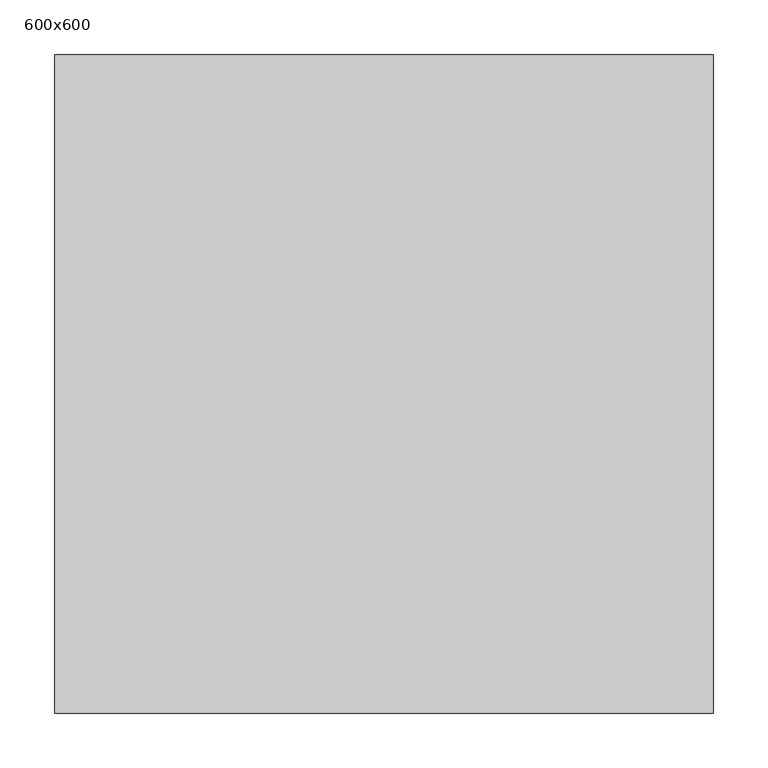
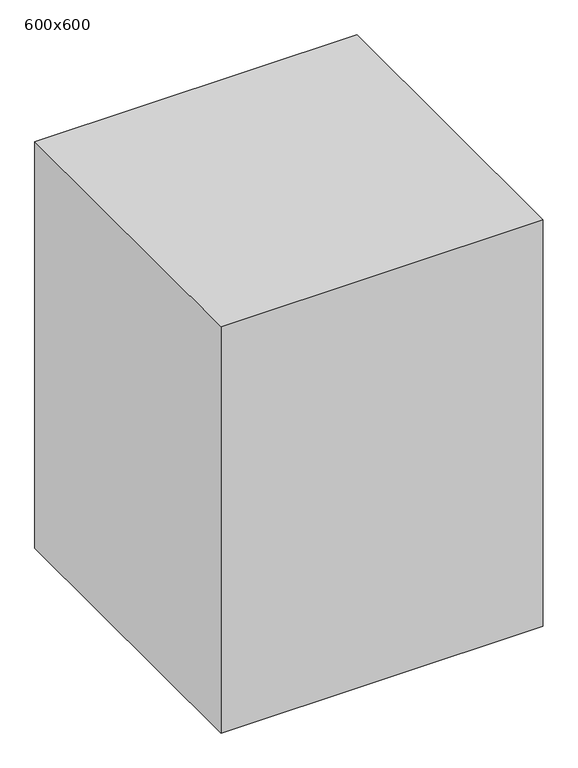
"""IFC4 building model written with IfcOpenShell, lengths in millimetres: flow terminal geometry, SP_раковина кухонная_LEG : 600x600."""

from ifc_helpers import new_model, si_unit, origin, origin_with_axes, place, context, project, spatial, polyline, outline, extrude, source, transform, mapped, element, save


def flow_terminal_600x600_aff60e7d(model_context):
    return source(origin(), model_context, "Body", "SweptSolid", [
        extrude(outline(polyline([(0.0, 0.0), (0.0, -600.0), (-600.0, -600.0), (-600.0, 0.0), (0.0, 0.0)])), origin_with_axes(), (0.0, 0.0, 1.0), 800.0),
    ])


if __name__ == "__main__":
    model = new_model("IFC4")
    model_context = context("Model", 3, world=origin())
    ifc_project = project(units=[si_unit("LENGTHUNIT", "METRE", prefix="MILLI")], contexts=[model_context])
    site = spatial("IfcSite", under=ifc_project)
    building = spatial("IfcBuilding", under=site)
    placement = place(None, origin())
    flow_terminal_600x600_shape = flow_terminal_600x600_aff60e7d(model_context)
    element("IfcFlowTerminal", 1, ObjectType="SP_раковина кухонная_LEG : 600x600", at=placement, inside=building, context=model_context, shape_type="MappedRepresentation", body=[
        mapped(flow_terminal_600x600_shape, transform((0.0, 0.0, 0.0), x_axis=(1.0, 0.0, 0.0), y_axis=(0.0, 1.0, 0.0), z_axis=(0.0, 0.0, 1.0))),
    ])
    save(model, "model.ifc")
